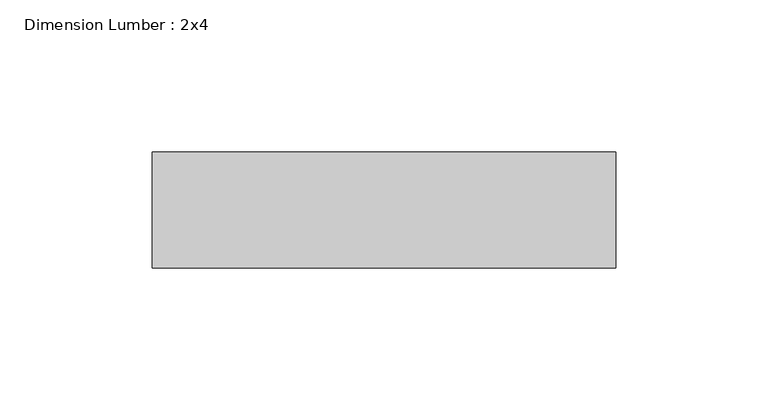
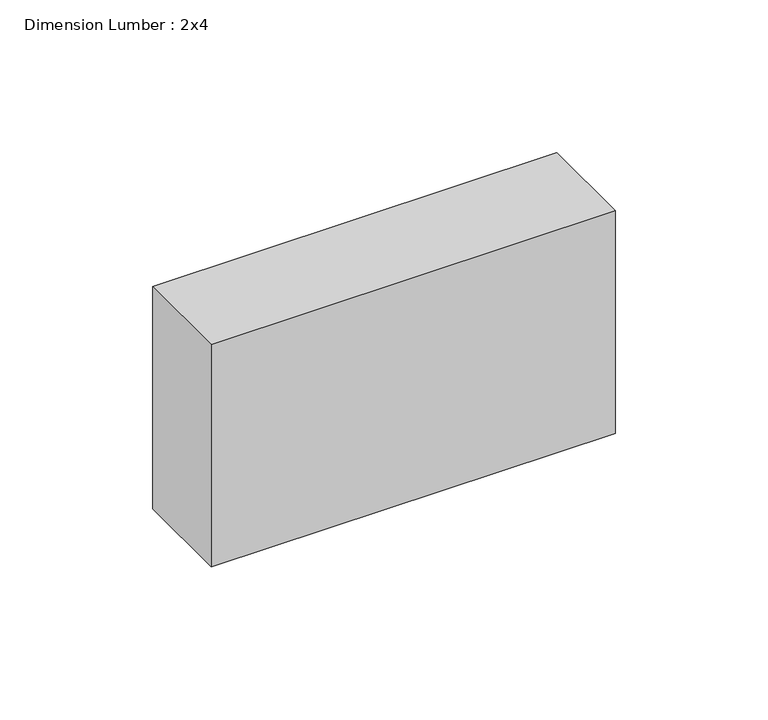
"""IFC4 building model written with IfcOpenShell, lengths in millimetres: beam geometry, Dimension Lumber : 2x4."""

from ifc_helpers import new_model, si_unit, frame, origin, place, context, project, spatial, polyline, outline, extrude, source, transform, mapped, element, save


def dimension_lumber_2x4_4a1a36a2(model_context):
    return source(origin(), model_context, "Body", "SweptSolid", [
        extrude(outline(polyline([(76.2, 19.05), (76.2, -19.05), (-76.2, -19.05), (-76.2, 19.05), (76.2, 19.05)])), frame((0.0, 0.0, -44.45), z_axis=(0.0, 0.0, 1.0), x_axis=(1.0, 0.0, 0.0)), (0.0, 0.0, 1.0), 88.9),
    ])


if __name__ == "__main__":
    model = new_model("IFC4")
    model_context = context("Model", 3, world=origin())
    ifc_project = project(units=[si_unit("LENGTHUNIT", "METRE", prefix="MILLI")], contexts=[model_context])
    site = spatial("IfcSite", under=ifc_project)
    building = spatial("IfcBuilding", under=site)
    placement = place(None, origin())
    dimension_lumber_2x4_shape = dimension_lumber_2x4_4a1a36a2(model_context)
    element("IfcBeam", 1, ObjectType="Dimension Lumber : 2x4", at=placement, inside=building, context=model_context, shape_type="MappedRepresentation", body=[
        mapped(dimension_lumber_2x4_shape, transform((0.0, 0.0, 0.0), x_axis=(1.0, 0.0, 0.0), y_axis=(0.0, 1.0, 0.0), z_axis=(0.0, 0.0, 1.0))),
    ])
    save(model, "model.ifc")
